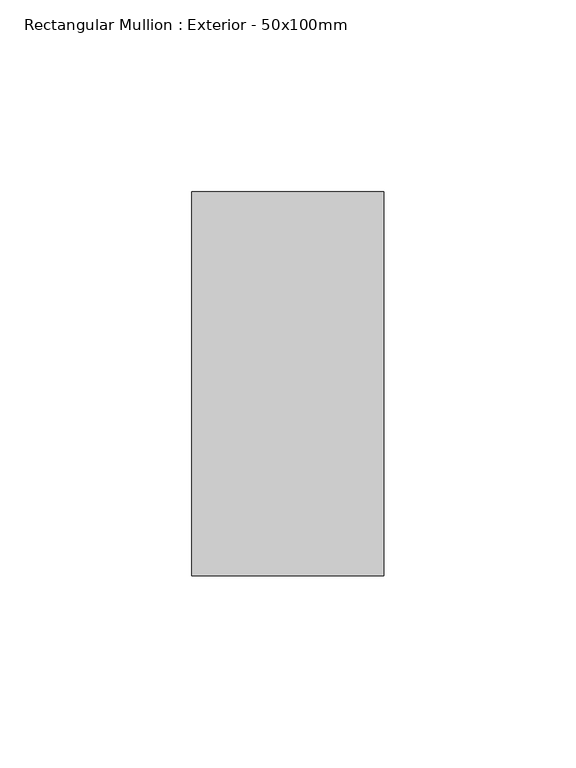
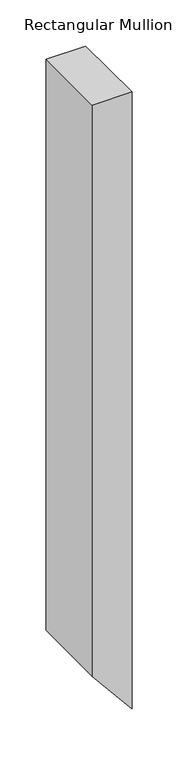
"""IFC4 building model written with IfcOpenShell, lengths in millimetres: member geometry, Rectangular Mullion : Exterior - 50x100mm."""

from ifc_helpers import new_model, si_unit, frame, origin, place, context, project, spatial, polyline, outline, extrude, source, transform, mapped, element, save


def rectangular_mullion_exterior_50x100mm_298fbafc(model_context):
    return source(origin(), model_context, "Body", "SweptSolid", [
        extrude(outline(polyline([(0.0, 0.0), (0.0, -50.0), (-756.5675217, -50.0), (-817.2223719, 0.0), (0.0, 0.0)])), frame((0.0, 0.0, 0.0), z_axis=(0.0, 1.0, 0.0), x_axis=(0.0, 0.0, 1.0)), (0.0, 0.0, 1.0), 100.0),
    ])


if __name__ == "__main__":
    model = new_model("IFC4")
    model_context = context("Model", 3, world=origin())
    ifc_project = project(units=[si_unit("LENGTHUNIT", "METRE", prefix="MILLI")], contexts=[model_context])
    site = spatial("IfcSite", under=ifc_project)
    building = spatial("IfcBuilding", under=site)
    placement = place(None, origin())
    rectangular_mullion_exterior_50x100mm_shape = rectangular_mullion_exterior_50x100mm_298fbafc(model_context)
    element("IfcMember", 1, ObjectType="Rectangular Mullion : Exterior - 50x100mm", at=placement, inside=building, context=model_context, shape_type="MappedRepresentation", body=[
        mapped(rectangular_mullion_exterior_50x100mm_shape, transform((0.0, 0.0, 0.0), x_axis=(1.0, 0.0, 0.0), y_axis=(0.0, 1.0, 0.0), z_axis=(0.0, 0.0, 1.0))),
    ])
    save(model, "model.ifc")
